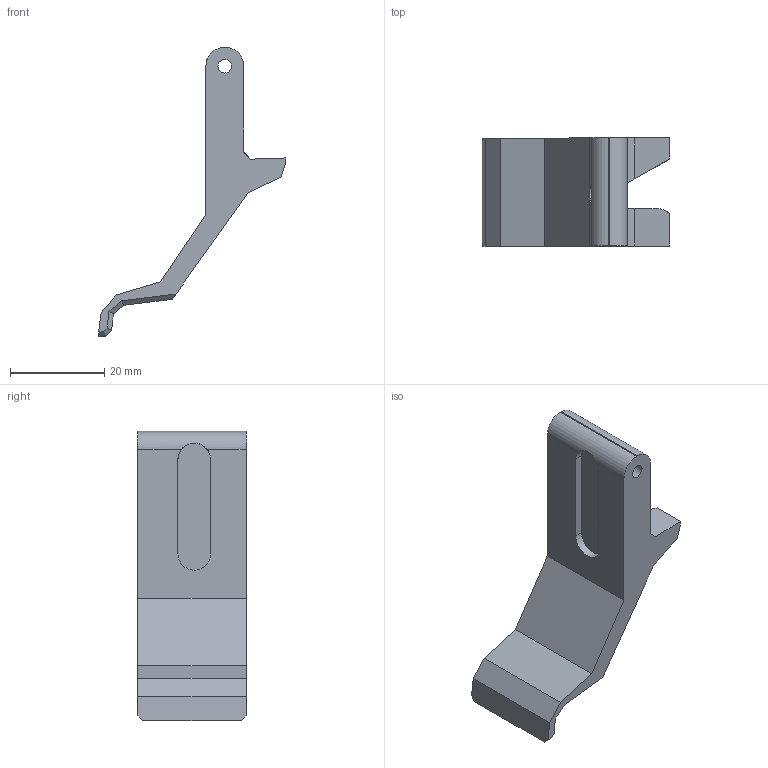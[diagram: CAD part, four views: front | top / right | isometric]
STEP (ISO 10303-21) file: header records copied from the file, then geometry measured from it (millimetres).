
FILE_DESCRIPTION(('FreeCAD Model'),'2;1');
FILE_NAME('Open CASCADE Shape Model','2026-07-02T18:47:08',('FreeCAD'),( 'FreeCAD'),'Open CASCADE STEP processor 7.8','FreeCAD','Unknown');
FILE_SCHEMA(('AUTOMOTIVE_DESIGN { 1 0 10303 214 1 1 1 1 }'));
Length unit declared in the file: millimetre
Products named in the file (1): Open CASCADE STEP translator 7.8 11
Bounding box: 39.93 x 23 x 61.47 mm (x, y, z)
Volume: 9833 mm3; surface area: 5083.7 mm2
Topology: 1 solids, 1 shells, 51 faces, 135 edges, 87 vertices
Faces by surface type: plane 43, cylinder 7, cone 1
Full cylindrical faces by diameter (mm): 2.9 x1, 3.2 x1
Entity records: 1596 total; most frequent: CARTESIAN_POINT 305, ORIENTED_EDGE 270, DIRECTION 254, EDGE_CURVE 135, LINE 118, VECTOR 118, VERTEX_POINT 87, AXIS2_PLACEMENT_3D 68
